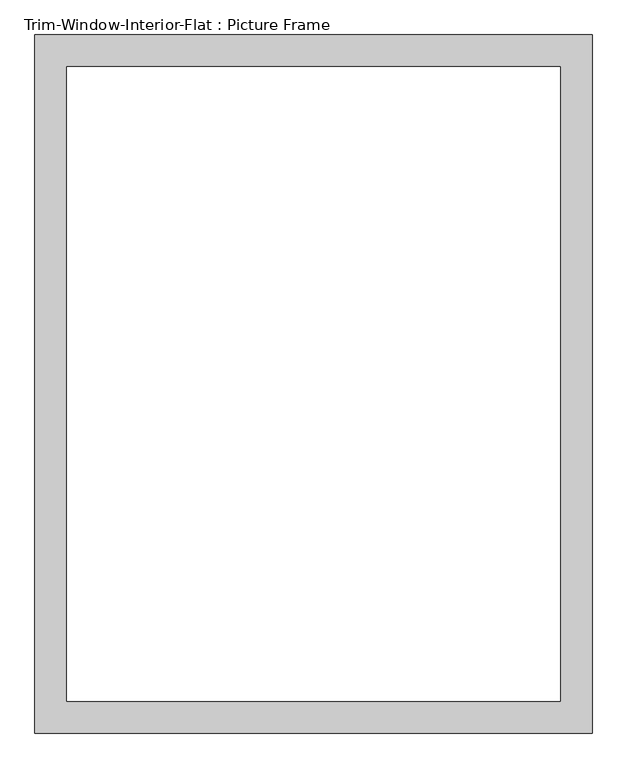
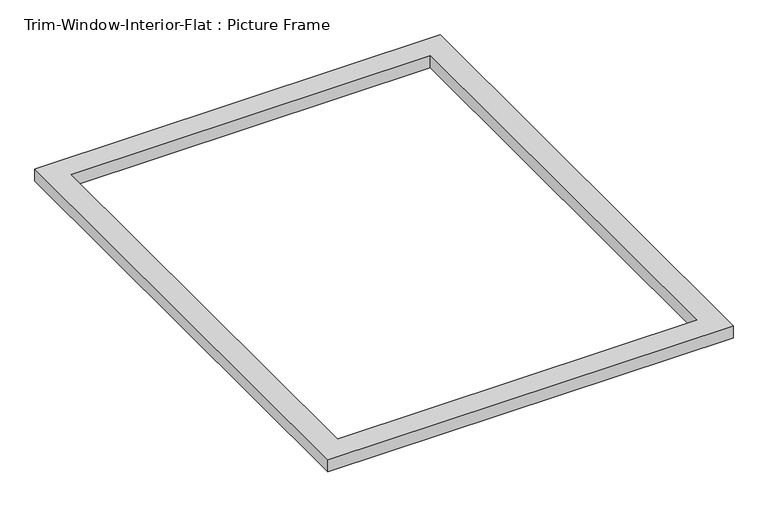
"""IFC4 building model written with IfcOpenShell, lengths in millimetres: proxy geometry, Trim-Window-Interior-Flat : Picture Frame."""

from ifc_helpers import new_model, si_unit, origin, origin_with_axes, place, context, project, spatial, polyline, outline, extrude, source, transform, mapped, element, save


def trim_window_interior_flat_picture_frame_bbc74a42(model_context):
    return source(origin(), model_context, "Body", "SweptSolid", [
        extrude(outline(polyline([(501.65, -44.45), (-501.65, -44.45), (-501.65, 1212.85), (501.65, 1212.85), (501.65, -44.45)]), holes=[polyline([(444.5, 12.7), (444.5, 1155.7), (-444.5, 1155.7), (-444.5, 12.7), (444.5, 12.7)])]), origin_with_axes(), (0.0, 0.0, 1.0), 31.75),
    ])


if __name__ == "__main__":
    model = new_model("IFC4")
    model_context = context("Model", 3, world=origin())
    ifc_project = project(units=[si_unit("LENGTHUNIT", "METRE", prefix="MILLI")], contexts=[model_context])
    site = spatial("IfcSite", under=ifc_project)
    building = spatial("IfcBuilding", under=site)
    placement = place(None, origin())
    trim_window_interior_flat_picture_frame_shape = trim_window_interior_flat_picture_frame_bbc74a42(model_context)
    element("IfcBuildingElementProxy", 1, Name="Trim-Window-Interior-Flat : Picture Frame", ObjectType="Trim-Window-Interior-Flat : Picture Frame", at=placement, inside=building, context=model_context, shape_type="MappedRepresentation", body=[
        mapped(trim_window_interior_flat_picture_frame_shape, transform((0.0, 0.0, 0.0), x_axis=(1.0, 0.0, 0.0), y_axis=(0.0, 1.0, 0.0), z_axis=(0.0, 0.0, 1.0))),
    ])
    save(model, "model.ifc")
